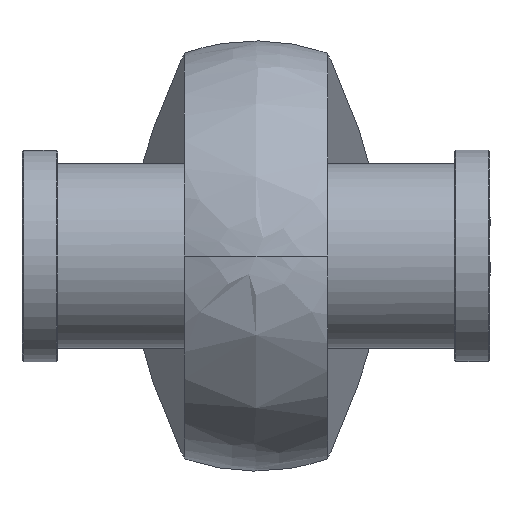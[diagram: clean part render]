
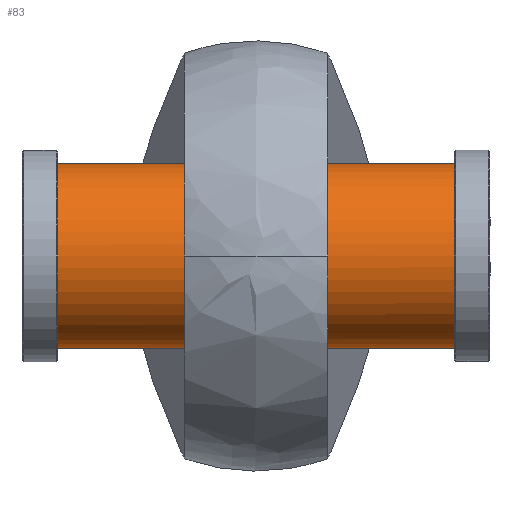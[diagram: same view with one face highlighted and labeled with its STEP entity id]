
A CAD part, left-side view. The second image highlights one B-rep face of the part: STEP entity #83.
In plain terms, the highlighted cylindrical face has radius 28.5 mm (diameter 57 mm), a full revolution.
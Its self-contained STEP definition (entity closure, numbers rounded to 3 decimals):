
#83=ADVANCED_FACE('',(#157),#1214,.T.);
#157=FACE_OUTER_BOUND('',#238,.T.);
#238=EDGE_LOOP('',(#506,#507,#508,#509));
#506=ORIENTED_EDGE('',*,*,#774,.T.);
#507=ORIENTED_EDGE('',*,*,#776,.T.);
#508=ORIENTED_EDGE('',*,*,#775,.T.);
#509=ORIENTED_EDGE('',*,*,#776,.F.);
#774=EDGE_CURVE('',#1128,#1128,#983,.T.);
#775=EDGE_CURVE('',#1129,#1129,#984,.T.);
#776=EDGE_CURVE('',#1128,#1129,#897,.T.);
#897=B_SPLINE_CURVE_WITH_KNOTS('',1,(#2248,#2249),.UNSPECIFIED.,.F.,.F.,
(2,2),(12.277,133.852),.UNSPECIFIED.);
#983=(
BOUNDED_CURVE()
B_SPLINE_CURVE(2,(#2230,#2231,#2232,#2233,#2234,#2235,#2236,#2237,#2238),
 .UNSPECIFIED.,.T.,.F.)
B_SPLINE_CURVE_WITH_KNOTS((3,2,2,2,3),(0.,44.768,89.535,
134.303,179.071),.UNSPECIFIED.)
CURVE()
GEOMETRIC_REPRESENTATION_ITEM()
RATIONAL_B_SPLINE_CURVE((1.,0.707,1.,0.707,1.,0.707,
1.,0.707,1.))
REPRESENTATION_ITEM('')
);
#984=(
BOUNDED_CURVE()
B_SPLINE_CURVE(2,(#2239,#2240,#2241,#2242,#2243,#2244,#2245,#2246,#2247),
 .UNSPECIFIED.,.T.,.F.)
B_SPLINE_CURVE_WITH_KNOTS((3,2,2,2,3),(0.,44.768,89.535,
134.303,179.071),.UNSPECIFIED.)
CURVE()
GEOMETRIC_REPRESENTATION_ITEM()
RATIONAL_B_SPLINE_CURVE((1.,0.707,1.,0.707,1.,0.707,
1.,0.707,1.))
REPRESENTATION_ITEM('')
);
#1128=VERTEX_POINT('',#2182);
#1129=VERTEX_POINT('',#2183);
#1214=CYLINDRICAL_SURFACE('',#1366,28.5);
#1366=AXIS2_PLACEMENT_3D('',#2172,#1412,$);
#1412=DIRECTION('',(0.,-1.,0.));
#2172=CARTESIAN_POINT('',(0.,0.,0.));
#2182=CARTESIAN_POINT('',(28.5,60.787,0.));
#2183=CARTESIAN_POINT('',(28.5,-60.787,0.));
#2230=CARTESIAN_POINT('',(28.5,60.787,0.));
#2231=CARTESIAN_POINT('',(28.5,60.787,28.5));
#2232=CARTESIAN_POINT('',(0.,60.787,28.5));
#2233=CARTESIAN_POINT('',(-28.5,60.787,28.5));
#2234=CARTESIAN_POINT('',(-28.5,60.787,0.));
#2235=CARTESIAN_POINT('',(-28.5,60.787,-28.5));
#2236=CARTESIAN_POINT('',(0.,60.787,-28.5));
#2237=CARTESIAN_POINT('',(28.5,60.787,-28.5));
#2238=CARTESIAN_POINT('',(28.5,60.787,0.));
#2239=CARTESIAN_POINT('',(28.5,-60.787,0.));
#2240=CARTESIAN_POINT('',(28.5,-60.787,-28.5));
#2241=CARTESIAN_POINT('',(0.,-60.787,-28.5));
#2242=CARTESIAN_POINT('',(-28.5,-60.787,-28.5));
#2243=CARTESIAN_POINT('',(-28.5,-60.787,0.));
#2244=CARTESIAN_POINT('',(-28.5,-60.787,28.5));
#2245=CARTESIAN_POINT('',(0.,-60.787,28.5));
#2246=CARTESIAN_POINT('',(28.5,-60.787,28.5));
#2247=CARTESIAN_POINT('',(28.5,-60.787,0.));
#2248=CARTESIAN_POINT('',(28.5,60.787,0.));
#2249=CARTESIAN_POINT('',(28.5,-60.787,0.));
